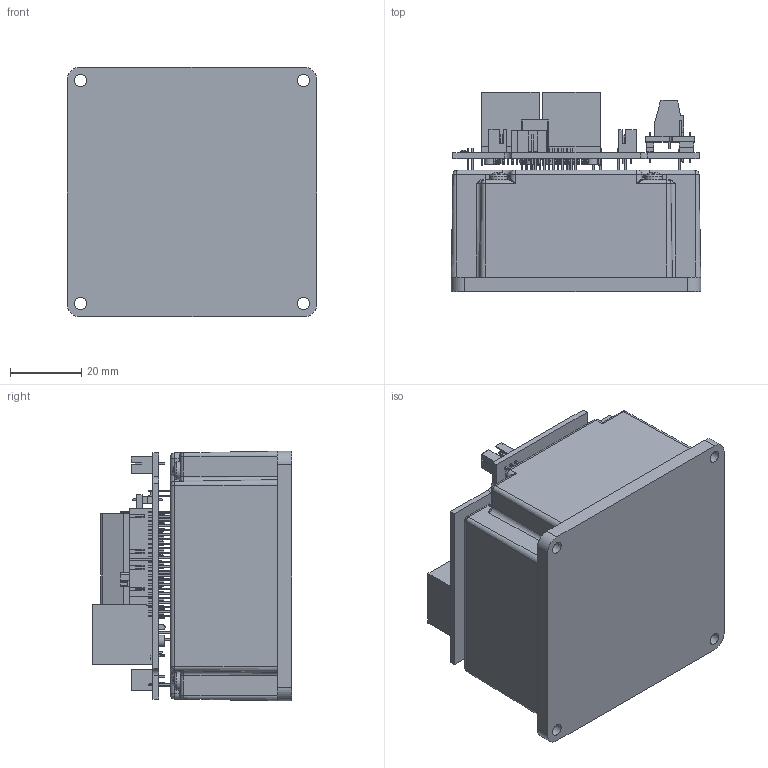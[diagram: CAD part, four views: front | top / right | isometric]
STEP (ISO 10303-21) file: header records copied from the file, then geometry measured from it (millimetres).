
FILE_DESCRIPTION (( 'STEP AP203' ), '1' );
FILE_NAME ('GOLD SOLO MANDOLINE.STEP', '2016-07-03T08:19:27', ( 'YAEL' ), ( 'Microsoft' ), 'SwSTEP 2.0', 'SolidWorks 2013', '' );
FILE_SCHEMA (( 'CONFIG_CONTROL_DESIGN' ));
Length unit declared in the file: millimetre
Products named in the file (16): LED_KPTB-1615SURKCGKC-RY; JCB-115008FCM; IOC_PCB; conn_2417sj-03-f4; 1729063; usb_a-usb_b-m5-top; Samtec-TW-02-01-T-S-120-101; PCB_MANDOLINE_SIB; conn_2417sj-24-phd; G-MANDOLINE_EMPTY; conn_2417sj-12-phd; GOLD SOLO MANDOLINE; conn_2417sj-08-phd; conn_2417sj-02-f4
Assembly tree (23 placements, depth 4):
  GOLD SOLO MANDOLINE
    PCB_MANDOLINE_SIB
      PCB_MANDOLINE_SIB
      JCB-115008FCM  x2
      conn_2417sj-03-f4  x2
      usb_a-usb_b-m5-top
      Samtec-TW-02-01-T-S-120-101  x6
      conn_2417sj-24-phd
      conn_2417sj-12-phd
      conn_2417sj-08-phd
      conn_2417sj-02-f4
      LED_KPTB-1615SURKCGKC-RY  x2
      IOC_PCB
        IOC_PCB
        1729063
    G-MANDOLINE_EMPTY
Bounding box: 70 x 55.9 x 70 mm (x, y, z)
Volume: 173074 mm3; surface area: 43069 mm2
Topology: 21 solids, 21 shells, 3253 faces, 8175 edges, 5354 vertices
Faces by surface type: plane 2684, cylinder 420, bspline 69, cone 56, torus 20, sphere 4
Full cylindrical faces by diameter (mm): 0.15 x6, 0.2 x10, 0.216 x1, 0.217 x1, 0.254 x28, 0.303 x4, 0.309 x1, 0.457 x1, 0.6 x5, 0.71 x72, 0.797 x8, 0.8 x98, 1 x8, 1.3 x14, 1.8 x2, 2.5 x4, 3.175 x8, 3.4 x4, 3.8 x7, 3.83 x7
Entity records: 82748 total; most frequent: CARTESIAN_POINT 17778, ORIENTED_EDGE 12598, DIRECTION 12206, EDGE_CURVE 6299, VECTOR 5170, LINE 5170, VERTEX_POINT 4338, EDGE_LOOP 3713
